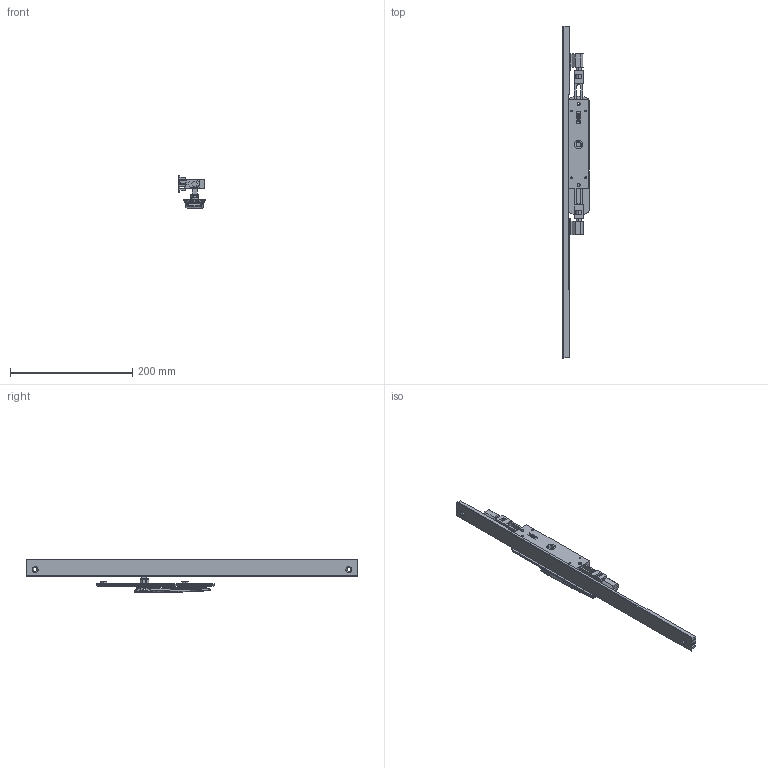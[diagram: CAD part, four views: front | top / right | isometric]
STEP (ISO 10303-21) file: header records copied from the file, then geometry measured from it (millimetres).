
FILE_DESCRIPTION (( 'STEP AP214' ), '1' );
FILE_NAME ('TPL-W-EU-603-L 06Nov2024.STEP', '2024-11-27T01:08:28', ( '' ), ( '' ), 'SwSTEP 2.0', 'SolidWorks 2023', '' );
FILE_SCHEMA (( 'AUTOMOTIVE_DESIGN' ));
Length unit declared in the file: millimetre
Products named in the file (18): Copy of COV-112-A Cover A suit TPLGen2 standard range^TPL-W-EU-103 04Nov2024_1335mm; Copy of LKC-516 Escutcheon plate unkeyed 195mm long zinc - simplified^Copy of TPGen2 handle non-keyed short zinc - simplified_TPL-W-EU-103 04Nov2024; COV-112-B Cover B suit TPLGen2 standard range^TPL-W-EU-103 04Nov2024_2870mm; Copy of TPGen2 handle non-keyed short zinc - simplified^TPL-W-EU-103 04Nov2024_Vertical; Copy of TPLGen2 lock body non-keyed assembly^TPL-W-EU-103 04Nov2024_Bolts extended; Copy of Copy of LKC-531 Lock twinpoint transmission rod wood system^TPL-W-EU-103 04Nov2024_Standard Range 2891.7mm; Copy of COV-112-C Cover C TPLGen2 Lock body^TPL-W-EU-103 04Nov2024; Copy of Adapter CnE - simplfied^TPL-W-EU-103 04Nov2024_26mm backset; Copy of LKC-505 Swing handle zinc - simplified^Copy of TPGen2 handle non-keyed short zinc - simplified_TPL-W-EU-103 04Nov2024; Copy of LKC-585 Rotator body zinc^Copy of TPGen2 handle non-keyed short zinc - simplified_TPL-W-EU-103 04Nov2024; Copy of TPLGen2 lock body non-keyed^Copy of TPLGen2 lock body non-keyed assembly_TPL-W-EU-103 04Nov2024; Bolt(2)^TPL-W-EU-103 04Nov2024; Copy of LKC-586 Spindle square 8mm with M4 hole^Copy of TPGen2 handle non-keyed short zinc - simplified_TPL-W-EU-103 04Nov2024_25mm; TPL-W-EU-603-L 06Nov2024; Copy of Adapter DnF - simplfied^TPL-W-EU-103 04Nov2024_26mm backset; TPLGen2 push rod - simplified^Copy of TPLGen2 lock body non-keyed assembly_TPL-W-EU-103 04Nov2024_Female thread M10; Copy of LKC-584 Pivot body zinc - simplified^Copy of TPGen2 handle non-keyed short zinc - simplified_TPL-W-EU-103 04Nov2024; LKC-531 Lock twinpoint transmission rod wood system^TPL-W-EU-103 04Nov2024_Standard Range 2891.7mm
Assembly tree (15 placements, depth 3):
  Copy of COV-112-A Cover A suit TPLGen2 standard range^TPL-W-EU-103 04Nov2024_1335mm
  COV-112-B Cover B suit TPLGen2 standard range^TPL-W-EU-103 04Nov2024_2870mm
  Bolt(2)^TPL-W-EU-103 04Nov2024
  TPL-W-EU-603-L 06Nov2024
    Copy of TPLGen2 lock body non-keyed assembly^TPL-W-EU-103 04Nov2024_Bolts extended
      Copy of TPLGen2 lock body non-keyed^Copy of TPLGen2 lock body non-keyed assembly_TPL-W-EU-103 04Nov2024
      TPLGen2 push rod - simplified^Copy of TPLGen2 lock body non-keyed assembly_TPL-W-EU-103 04Nov2024_Female thread M10  x2
    Copy of TPGen2 handle non-keyed short zinc - simplified^TPL-W-EU-103 04Nov2024_Vertical
      Copy of LKC-516 Escutcheon plate unkeyed 195mm long zinc - simplified^Copy of TPGen2 handle non-keyed short zinc - simplified_TPL-W-EU-103 04Nov2024
      Copy of LKC-505 Swing handle zinc - simplified^Copy of TPGen2 handle non-keyed short zinc - simplified_TPL-W-EU-103 04Nov2024
      Copy of LKC-585 Rotator body zinc^Copy of TPGen2 handle non-keyed short zinc - simplified_TPL-W-EU-103 04Nov2024
      Copy of LKC-586 Spindle square 8mm with M4 hole^Copy of TPGen2 handle non-keyed short zinc - simplified_TPL-W-EU-103 04Nov2024_25mm
      Copy of LKC-584 Pivot body zinc - simplified^Copy of TPGen2 handle non-keyed short zinc - simplified_TPL-W-EU-103 04Nov2024
    Copy of COV-112-C Cover C TPLGen2 Lock body^TPL-W-EU-103 04Nov2024
    Copy of Copy of LKC-531 Lock twinpoint transmission rod wood system^TPL-W-EU-103 04Nov2024_Standard Range 2891.7mm
    LKC-531 Lock twinpoint transmission rod wood system^TPL-W-EU-103 04Nov2024_Standard Range 2891.7mm
    Copy of Adapter DnF - simplfied^TPL-W-EU-103 04Nov2024_26mm backset
    Copy of Adapter CnE - simplfied^TPL-W-EU-103 04Nov2024_26mm backset
Bounding box: 43.5 x 544 x 53.86 mm (x, y, z)
Volume: 207002.8 mm3; surface area: 118615.4 mm2
Topology: 13 solids, 13 shells, 851 faces, 2100 edges, 1304 vertices
Faces by surface type: plane 304, bspline 241, cylinder 186, cone 66, torus 46, sphere 8
Entity records: 30683 total; most frequent: CARTESIAN_POINT 12559, ORIENTED_EDGE 4008, DIRECTION 3198, EDGE_CURVE 2004, VERTEX_POINT 1244, AXIS2_PLACEMENT_3D 1157, EDGE_LOOP 898, VECTOR 884
